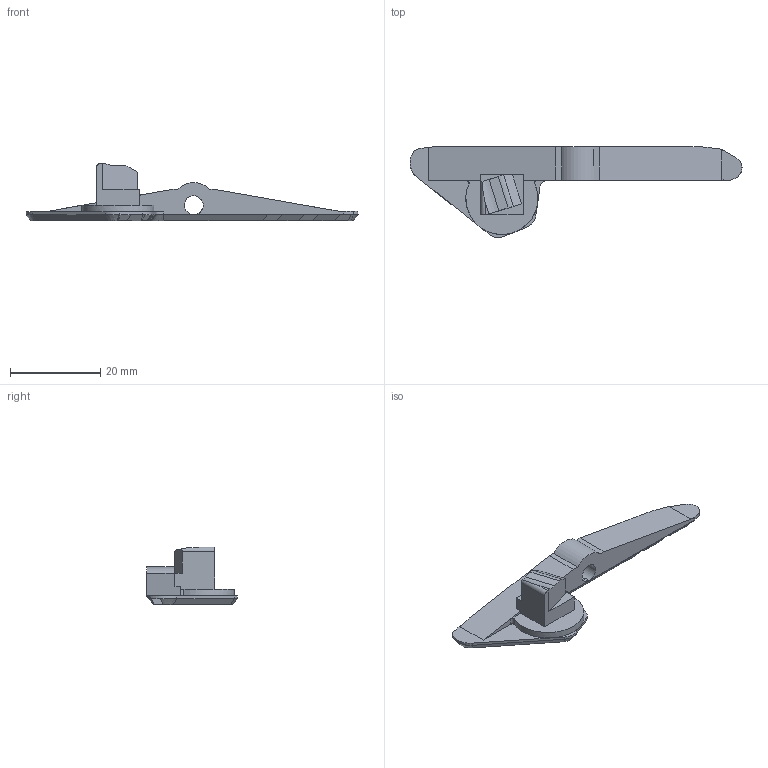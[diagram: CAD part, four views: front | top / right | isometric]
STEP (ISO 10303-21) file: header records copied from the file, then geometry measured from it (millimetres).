
FILE_DESCRIPTION(/* description */ (''),/* implementation_level */ '2;1');
FILE_NAME(/* name */ 'D:/Pew Pews/FGC-9_MkII_Stingray_Edition/Stingray Edition/.step files/2 - Lower/Magazine Catch Bar.step',/* time_stamp */ '2022-05-12T09:40:47-06:00',/* author */ (''),/* organization */ (''),/* preprocessor_version */ 'ST-DEVELOPER v18.1',/* originating_system */ 'Autodesk Translation Framework v10.10.0.1391',/* authorisation */ '');
FILE_SCHEMA (('AUTOMOTIVE_DESIGN { 1 0 10303 214 3 1 1 }'));
Length unit declared in the file: millimetre
Products named in the file (1): Magazine Catch Bar
Bounding box: 73.72 x 20.18 x 12.88 mm (x, y, z)
Volume: 3265 mm3; surface area: 2702.4 mm2
Topology: 1 solids, 3 shells, 134 faces, 335 edges, 205 vertices
Faces by surface type: plane 83, cylinder 24, bspline 14, cone 12, torus 1
Full cylindrical faces by diameter (mm): 4.2 x1
Entity records: 4362 total; most frequent: CARTESIAN_POINT 1207, ORIENTED_EDGE 670, DIRECTION 613, EDGE_CURVE 335, LINE 223, VECTOR 223, VERTEX_POINT 205, AXIS2_PLACEMENT_3D 195
